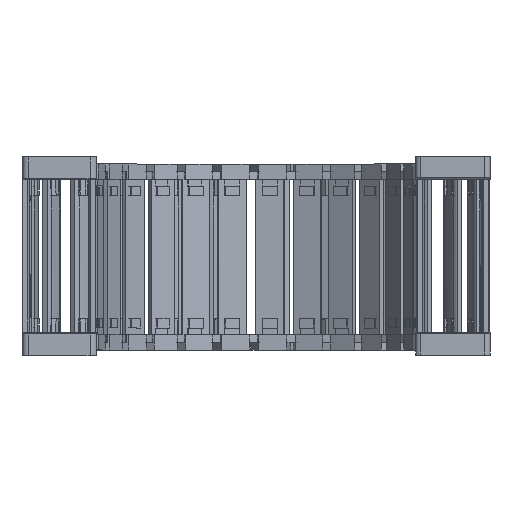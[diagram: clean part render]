
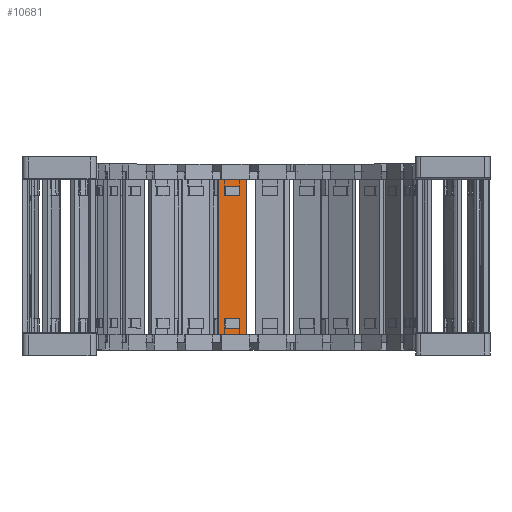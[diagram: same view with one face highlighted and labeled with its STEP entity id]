
A CAD part, top view. The second image highlights one B-rep face of the part: STEP entity #10681.
In plain terms, the highlighted planar face has unit normal (0.156, 0, 0.988).
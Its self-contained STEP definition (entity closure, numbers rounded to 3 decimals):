
#10681=ADVANCED_FACE('',(#45934,#45935,#45936),#15938,.F.);
#15938=PLANE('',#126792);
#24783=LINE('',#182267,#37399);
#24837=LINE('',#182426,#37453);
#24902=LINE('',#182786,#37518);
#24903=LINE('',#182788,#37519);
#24907=LINE('',#182796,#37523);
#25000=LINE('',#183097,#37616);
#25034=LINE('',#183207,#37650);
#25083=LINE('',#183531,#37699);
#25087=LINE('',#183543,#37703);
#25098=LINE('',#183568,#37714);
#25102=LINE('',#183575,#37718);
#25104=LINE('',#183579,#37720);
#25109=LINE('',#183609,#37725);
#25113=LINE('',#183619,#37729);
#25118=LINE('',#183651,#37734);
#25119=LINE('',#183652,#37735);
#25120=LINE('',#183653,#37736);
#25121=LINE('',#183655,#37737);
#37399=VECTOR('',#143806,1.);
#37453=VECTOR('',#143896,1.);
#37518=VECTOR('',#144113,1.);
#37519=VECTOR('',#144116,1.);
#37523=VECTOR('',#144122,1.);
#37616=VECTOR('',#144331,1.);
#37650=VECTOR('',#144389,1.);
#37699=VECTOR('',#144572,1.);
#37703=VECTOR('',#144582,1.);
#37714=VECTOR('',#144603,1.);
#37718=VECTOR('',#144609,1.);
#37720=VECTOR('',#144613,1.);
#37725=VECTOR('',#144626,1.);
#37729=VECTOR('',#144636,1.);
#37734=VECTOR('',#144655,1.);
#37735=VECTOR('',#144656,1.);
#37736=VECTOR('',#144657,1.);
#37737=VECTOR('',#144658,1.);
#45934=FACE_BOUND('',#48635,.T.);
#45935=FACE_BOUND('',#48636,.T.);
#45936=FACE_BOUND('',#48637,.T.);
#48635=EDGE_LOOP('',(#66150,#66151,#66152,#66153,#66154,#66155));
#48636=EDGE_LOOP('',(#66156,#66157,#66158,#66159,#66160,#66161));
#48637=EDGE_LOOP('',(#66162,#66163,#66164,#66165,#66166,#66167));
#66150=ORIENTED_EDGE('',*,*,#108678,.T.);
#66151=ORIENTED_EDGE('',*,*,#108626,.F.);
#66152=ORIENTED_EDGE('',*,*,#108493,.F.);
#66153=ORIENTED_EDGE('',*,*,#108650,.F.);
#66154=ORIENTED_EDGE('',*,*,#108183,.F.);
#66155=ORIENTED_EDGE('',*,*,#108360,.F.);
#66156=ORIENTED_EDGE('',*,*,#108679,.F.);
#66157=ORIENTED_EDGE('',*,*,#108660,.T.);
#66158=ORIENTED_EDGE('',*,*,#108648,.T.);
#66159=ORIENTED_EDGE('',*,*,#108632,.F.);
#66160=ORIENTED_EDGE('',*,*,#108535,.F.);
#66161=ORIENTED_EDGE('',*,*,#108665,.F.);
#66162=ORIENTED_EDGE('',*,*,#108361,.F.);
#66163=ORIENTED_EDGE('',*,*,#108644,.T.);
#66164=ORIENTED_EDGE('',*,*,#108680,.T.);
#66165=ORIENTED_EDGE('',*,*,#108681,.F.);
#66166=ORIENTED_EDGE('',*,*,#108365,.F.);
#66167=ORIENTED_EDGE('',*,*,#108249,.F.);
#93739=VERTEX_POINT('',#182266);
#93740=VERTEX_POINT('',#182268);
#93766=VERTEX_POINT('',#182350);
#93792=VERTEX_POINT('',#182413);
#93857=VERTEX_POINT('',#182785);
#93858=VERTEX_POINT('',#182789);
#93861=VERTEX_POINT('',#182797);
#93948=VERTEX_POINT('',#183096);
#93949=VERTEX_POINT('',#183098);
#93969=VERTEX_POINT('',#183169);
#93983=VERTEX_POINT('',#183199);
#94035=VERTEX_POINT('',#183532);
#94040=VERTEX_POINT('',#183544);
#94048=VERTEX_POINT('',#183567);
#94051=VERTEX_POINT('',#183576);
#94057=VERTEX_POINT('',#183610);
#94059=VERTEX_POINT('',#183618);
#94064=VERTEX_POINT('',#183654);
#108183=EDGE_CURVE('',#93739,#93740,#24783,.T.);
#108249=EDGE_CURVE('',#93792,#93766,#24837,.T.);
#108360=EDGE_CURVE('',#93857,#93739,#24902,.T.);
#108361=EDGE_CURVE('',#93858,#93792,#24903,.T.);
#108365=EDGE_CURVE('',#93766,#93861,#24907,.T.);
#108493=EDGE_CURVE('',#93948,#93949,#25000,.T.);
#108535=EDGE_CURVE('',#93969,#93983,#25034,.T.);
#108626=EDGE_CURVE('',#93949,#94035,#25083,.T.);
#108632=EDGE_CURVE('',#93983,#94040,#25087,.T.);
#108644=EDGE_CURVE('',#93858,#94048,#25098,.T.);
#108648=EDGE_CURVE('',#94051,#94040,#25102,.T.);
#108650=EDGE_CURVE('',#93740,#93948,#25104,.T.);
#108660=EDGE_CURVE('',#94057,#94051,#25109,.T.);
#108665=EDGE_CURVE('',#94059,#93969,#25113,.T.);
#108678=EDGE_CURVE('',#93857,#94035,#25118,.T.);
#108679=EDGE_CURVE('',#94057,#94059,#25119,.T.);
#108680=EDGE_CURVE('',#94048,#94064,#25120,.T.);
#108681=EDGE_CURVE('',#93861,#94064,#25121,.T.);
#126792=AXIS2_PLACEMENT_3D('',#183656,#144659,#144660);
#143806=DIRECTION('',(0.988,0.,-0.156));
#143896=DIRECTION('',(-0.988,0.,0.156));
#144113=DIRECTION('',(0.988,0.,-0.156));
#144116=DIRECTION('',(-0.988,0.,0.156));
#144122=DIRECTION('',(-0.988,0.,0.156));
#144331=DIRECTION('',(-0.988,0.,0.156));
#144389=DIRECTION('',(0.988,0.,-0.156));
#144572=DIRECTION('',(-0.988,0.,0.156));
#144582=DIRECTION('',(0.988,0.,-0.156));
#144603=DIRECTION('',(0.,-1.,0.));
#144609=DIRECTION('',(0.,-1.,0.));
#144613=DIRECTION('',(0.,-1.,0.));
#144626=DIRECTION('',(0.988,0.,-0.156));
#144636=DIRECTION('',(0.988,0.,-0.156));
#144655=DIRECTION('',(0.,-1.,0.));
#144656=DIRECTION('',(0.,-1.,0.));
#144657=DIRECTION('',(-0.988,0.,0.156));
#144658=DIRECTION('',(0.,-1.,0.));
#144659=DIRECTION('',(-0.156,0.,-0.988));
#144660=DIRECTION('',(0.988,0.,-0.156));
#182266=CARTESIAN_POINT('',(410.712,234.434,675.656));
#182267=CARTESIAN_POINT('',(410.38,234.434,675.709));
#182268=CARTESIAN_POINT('',(420.652,234.434,674.082));
#182350=CARTESIAN_POINT('',(412.408,231.822,675.387));
#182413=CARTESIAN_POINT('',(418.032,231.822,674.497));
#182426=CARTESIAN_POINT('',(418.204,231.822,674.469));
#182785=CARTESIAN_POINT('',(409.788,234.434,675.802));
#182786=CARTESIAN_POINT('',(410.38,234.434,675.709));
#182788=CARTESIAN_POINT('',(418.204,231.822,674.469));
#182789=CARTESIAN_POINT('',(418.204,231.822,674.469));
#182796=CARTESIAN_POINT('',(418.204,231.822,674.469));
#182797=CARTESIAN_POINT('',(412.236,231.822,675.415));
#183096=CARTESIAN_POINT('',(420.652,173.934,674.082));
#183097=CARTESIAN_POINT('',(410.38,173.934,675.709));
#183098=CARTESIAN_POINT('',(410.712,173.934,675.656));
#183169=CARTESIAN_POINT('',(412.408,176.545,675.387));
#183199=CARTESIAN_POINT('',(418.032,176.545,674.497));
#183207=CARTESIAN_POINT('',(418.204,176.545,674.469));
#183531=CARTESIAN_POINT('',(410.38,173.934,675.709));
#183532=CARTESIAN_POINT('',(409.788,173.934,675.802));
#183543=CARTESIAN_POINT('',(418.204,176.545,674.469));
#183544=CARTESIAN_POINT('',(418.204,176.545,674.469));
#183567=CARTESIAN_POINT('',(418.204,228.15,674.469));
#183568=CARTESIAN_POINT('',(418.204,246.919,674.469));
#183575=CARTESIAN_POINT('',(418.204,161.448,674.469));
#183576=CARTESIAN_POINT('',(418.204,180.218,674.469));
#183579=CARTESIAN_POINT('',(420.652,166.448,674.082));
#183609=CARTESIAN_POINT('',(418.204,180.218,674.469));
#183610=CARTESIAN_POINT('',(412.236,180.218,675.415));
#183618=CARTESIAN_POINT('',(412.236,176.545,675.415));
#183619=CARTESIAN_POINT('',(418.204,176.545,674.469));
#183651=CARTESIAN_POINT('',(409.788,166.448,675.802));
#183652=CARTESIAN_POINT('',(412.236,161.448,675.415));
#183653=CARTESIAN_POINT('',(418.204,228.15,674.469));
#183654=CARTESIAN_POINT('',(412.236,228.15,675.415));
#183655=CARTESIAN_POINT('',(412.236,246.919,675.415));
#183656=CARTESIAN_POINT('',(408.327,166.448,676.034));
